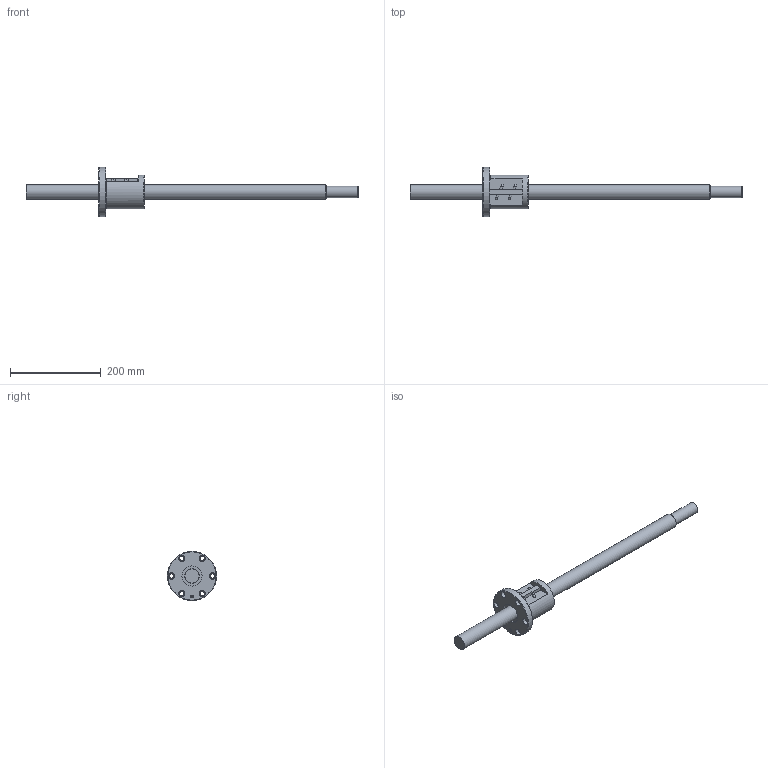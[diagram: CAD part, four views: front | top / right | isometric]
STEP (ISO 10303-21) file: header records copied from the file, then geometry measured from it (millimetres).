
FILE_DESCRIPTION(/* description */ ('STEP AP203'),/* implementation_level */ '2;1');
FILE_NAME(/* name */ 'BNF3210A-5RRG1+730LC5A(00)',/* time_stamp */ '2024-07-15T07:49:03+02:00',/* author */ ('License CC BY-ND 4.0'),/* organization */ ('CADENAS'),/* preprocessor_version */ 'ST-DEVELOPER v19.3',/* originating_system */ 'PARTsolutions',/* authorisation */ ' ');
FILE_SCHEMA (('CONFIG_CONTROL_DESIGN','MODEL_BASED_INTEGRATED_MANUFACTURING_SCHEMA'));
Length unit declared in the file: millimetre
Products named in the file (3): BNF3210A-5RRG1+730LC5A(00); BNF3210A-5RRG1+730LC5A(00)_shaft; BNF 3210A-5RR_nut
Assembly tree (2 placements, depth 2):
  BNF3210A-5RRG1+730LC5A(00)
    BNF3210A-5RRG1+730LC5A(00)_shaft
    BNF 3210A-5RR_nut
Bounding box: 730 x 108 x 108 mm (x, y, z)
Volume: 936145.8 mm3; surface area: 130627.6 mm2
Topology: 2 solids, 2 shells, 68 faces, 155 edges, 101 vertices
Faces by surface type: cylinder 32, plane 24, cone 8, torus 4
Full cylindrical faces by diameter (mm): 3.75 x2, 4.917 x1, 4.931 x4, 9 x6, 14 x6, 25.3 x1, 32 x2, 44 x2, 74 x1, 108 x1
Entity records: 1765 total; most frequent: DIRECTION 312, CARTESIAN_POINT 299, ORIENTED_EDGE 202, AXIS2_PLACEMENT_3D 144, EDGE_LOOP 142, FACE_BOUND 142, EDGE_CURVE 101, VERTEX_POINT 87
